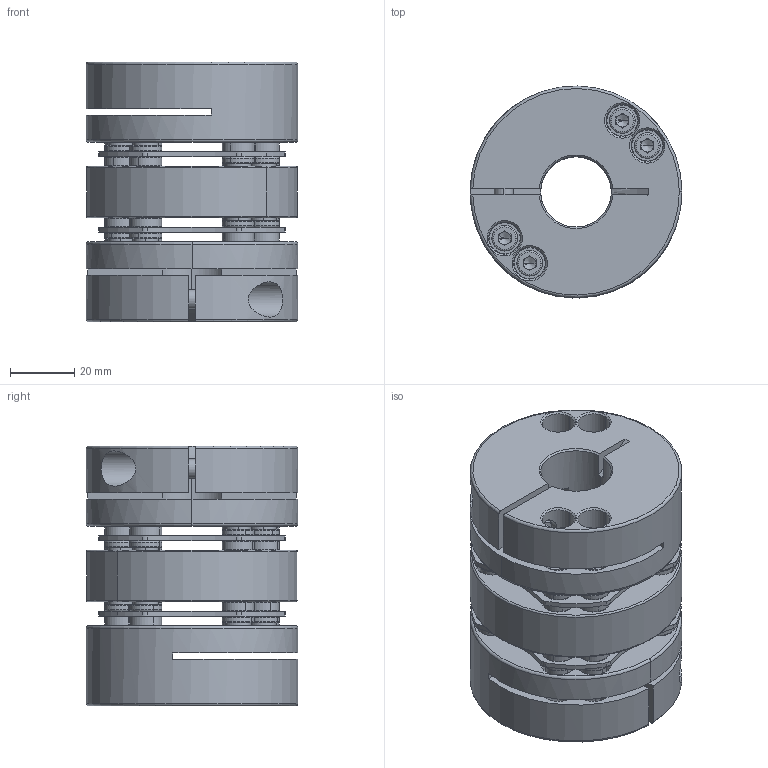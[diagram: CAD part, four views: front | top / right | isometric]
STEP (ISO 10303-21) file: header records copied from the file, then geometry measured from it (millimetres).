
FILE_DESCRIPTION (( 'STEP AP214' ), '1' );
FILE_NAME ('SHDW-66C.STEP', '2009-05-22T01:07:13', ( '歜煽繹' ), ( '' ), 'SwSTEP 2.0', 'SolidWorks 2007', '' );
FILE_SCHEMA (( 'AUTOMOTIVE_DESIGN' ));
Length unit declared in the file: millimetre
Products named in the file (10): sdw66-middle_ル遽; 辑胶魄 促弗 墨敲傅 绢祭锭荤侩_钎霖; SHDW-66C-1_ル遽; collar-2_ル遽; sus-plate_ル遽; M5x14; collar-1_ル遽; M6x20; SHDW-66C; 誠纖掘葬_ル遽
Assembly tree (31 placements, depth 4):
  SHDW-66C
    sdw66-middle_ル遽
    SHDW-66C-1_ル遽  x2
      M5x14
      辑胶魄 促弗 墨敲傅 绢祭锭荤侩_钎霖
        collar-1_ル遽  x8
        sus-plate_ル遽
        collar-2_ル遽  x8
      誠纖掘葬_ル遽
      M6x20
Bounding box: 66 x 66 x 81 mm (x, y, z)
Volume: 174024.6 mm3; surface area: 78382.6 mm2
Topology: 55 solids, 55 shells, 1288 faces, 2798 edges, 1640 vertices
Faces by surface type: cylinder 384, plane 384, torus 376, cone 144
Entity records: 8111 total; most frequent: DIRECTION 1522, CARTESIAN_POINT 1435, ORIENTED_EDGE 1194, AXIS2_PLACEMENT_3D 646, EDGE_CURVE 597, VERTEX_POINT 363, CIRCLE 355, EDGE_LOOP 324
